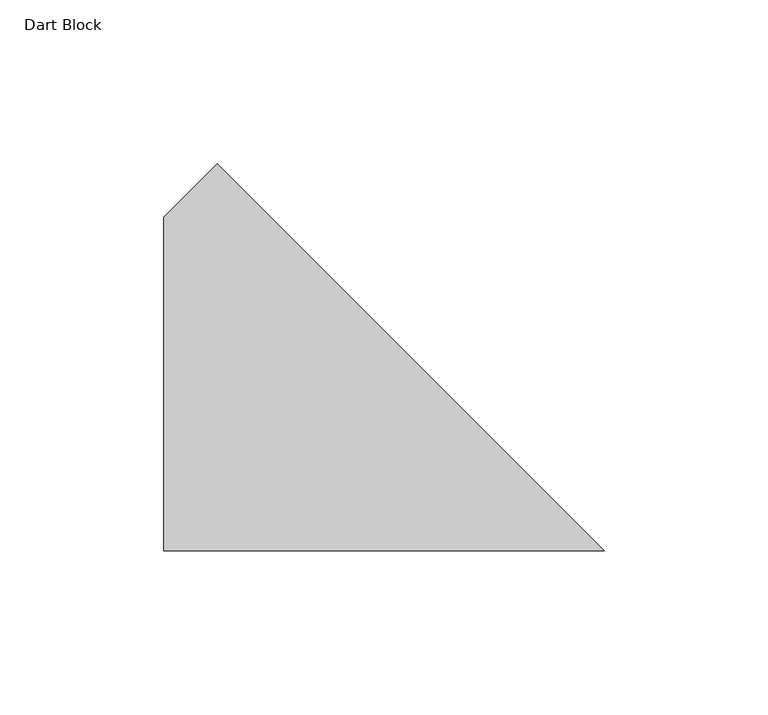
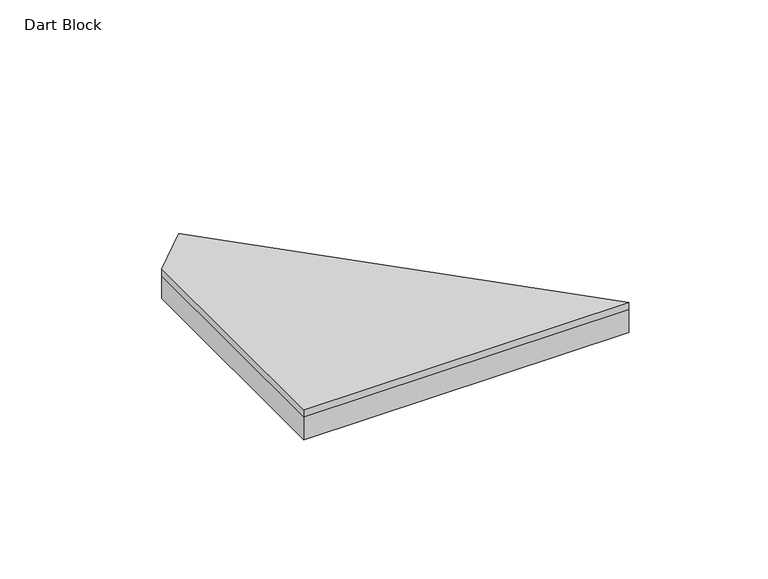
"""IFC4 building model written with IfcOpenShell, lengths in millimetres: proxy geometry, FilzFelt_Dart_Block : Dart Block."""

from ifc_helpers import new_model, si_unit, frame, origin, origin_with_axes, place, context, project, spatial, polyline, outline, extrude, source, transform, mapped, element, save


def dart_block_9fc4d5a6(model_context):
    return source(origin(), model_context, "Body", "SweptSolid", [
        extrude(outline(polyline([(-16.3517499, 174.1482501), (0.0, 190.5), (118.4083878, 72.0916122), (-16.3517499, 72.0916122), (-16.3517499, 174.1482501)])), frame((0.0, 0.0, 10.0210937), z_axis=(0.0, 0.0, 1.0), x_axis=(1.0, 0.0, 0.0)), (0.0, 0.0, 1.0), 2.9765625),
        extrude(outline(polyline([(-16.3517499, 174.1482501), (0.0, 190.5), (118.4083878, 72.0916122), (-16.3517499, 72.0916122), (-16.3517499, 174.1482501)])), origin_with_axes(), (0.0, 0.0, 1.0), 10.0210938),
    ])


if __name__ == "__main__":
    model = new_model("IFC4")
    model_context = context("Model", 3, world=origin())
    ifc_project = project(units=[si_unit("LENGTHUNIT", "METRE", prefix="MILLI")], contexts=[model_context])
    site = spatial("IfcSite", under=ifc_project)
    building = spatial("IfcBuilding", under=site)
    placement = place(None, origin())
    dart_block_shape = dart_block_9fc4d5a6(model_context)
    element("IfcBuildingElementProxy", 1, Name="FilzFelt_Dart_Block : Dart Block", ObjectType="FilzFelt_Dart_Block : Dart Block", at=placement, inside=building, context=model_context, shape_type="MappedRepresentation", body=[
        mapped(dart_block_shape, transform((0.0, 0.0, 0.0), x_axis=(1.0, 0.0, 0.0), y_axis=(0.0, 1.0, 0.0), z_axis=(0.0, 0.0, 1.0))),
    ])
    save(model, "model.ifc")
